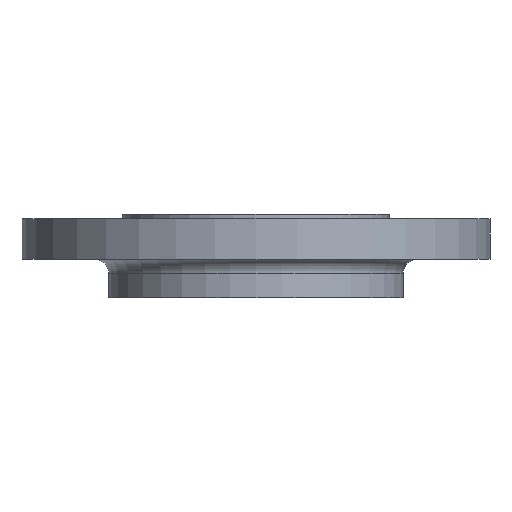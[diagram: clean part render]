
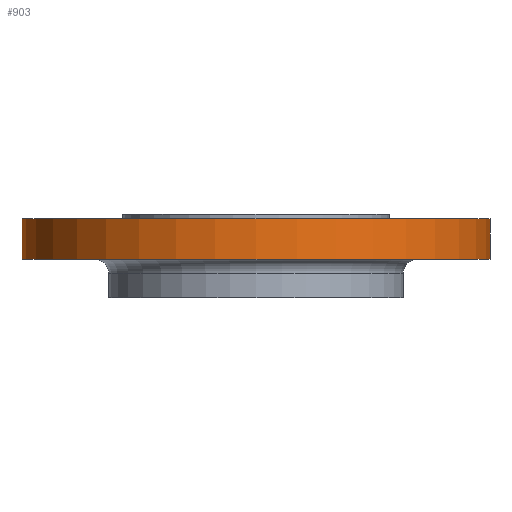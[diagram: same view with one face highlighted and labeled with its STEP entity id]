
A CAD part, front view. The second image highlights one B-rep face of the part: STEP entity #903.
In plain terms, the highlighted cylindrical face has radius 135 mm (diameter 270 mm), a partial arc.
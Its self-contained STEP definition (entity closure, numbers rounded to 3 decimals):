
#71 = DIRECTION ( 'NONE',  ( 1., 0., 0. ) ) ;
#103 = DIRECTION ( 'NONE',  ( 1., 0., 0. ) ) ;
#105 = DIRECTION ( 'NONE',  ( 0., 0., 1. ) ) ;
#107 = CARTESIAN_POINT ( 'NONE',  ( 0., 0., -26. ) ) ;
#118 = DIRECTION ( 'NONE',  ( 0., 0., 1. ) ) ;
#119 = CARTESIAN_POINT ( 'NONE',  ( 0., 0., -78. ) ) ;
#120 = CYLINDRICAL_SURFACE ( 'NONE', #155, 135. ) ;
#122 = FACE_OUTER_BOUND ( 'NONE', #683, .T. ) ;
#155 = AXIS2_PLACEMENT_3D ( 'NONE', #119, #118, #71 ) ;
#167 = CIRCLE ( 'NONE', #172, 135. ) ;
#172 = AXIS2_PLACEMENT_3D ( 'NONE', #107, #105, #103 ) ;
#211 = CARTESIAN_POINT ( 'NONE',  ( -135., 0., -2.5 ) ) ;
#213 = DIRECTION ( 'NONE',  ( 0., 0., 1. ) ) ;
#214 = CARTESIAN_POINT ( 'NONE',  ( 135., 0., -78. ) ) ;
#215 = LINE ( 'NONE', #214, #703 ) ;
#317 = CARTESIAN_POINT ( 'NONE',  ( -135., 0., -26. ) ) ;
#325 = CARTESIAN_POINT ( 'NONE',  ( 135., 0., -2.5 ) ) ;
#330 = CARTESIAN_POINT ( 'NONE',  ( 135., 0., -26. ) ) ;
#381 = DIRECTION ( 'NONE',  ( 0., 0., 1. ) ) ;
#382 = CARTESIAN_POINT ( 'NONE',  ( -135., 0., -78. ) ) ;
#383 = LINE ( 'NONE', #382, #615 ) ;
#444 = EDGE_CURVE ( 'NONE', #677, #831, #601, .T. ) ;
#490 = DIRECTION ( 'NONE',  ( 0., 0., -1. ) ) ;
#528 = DIRECTION ( 'NONE',  ( -1., 0., 0. ) ) ;
#600 = AXIS2_PLACEMENT_3D ( 'NONE', #812, #490, #528 ) ;
#601 = CIRCLE ( 'NONE', #600, 135. ) ;
#615 = VECTOR ( 'NONE', #381, 1000. ) ;
#625 = EDGE_CURVE ( 'NONE', #685, #831, #383, .T. ) ;
#666 = VERTEX_POINT ( 'NONE', #330 ) ;
#677 = VERTEX_POINT ( 'NONE', #325 ) ;
#683 = EDGE_LOOP ( 'NONE', ( #959, #961, #962, #963 ) ) ;
#685 = VERTEX_POINT ( 'NONE', #317 ) ;
#703 = VECTOR ( 'NONE', #213, 1000. ) ;
#812 = CARTESIAN_POINT ( 'NONE',  ( 0., 0., -2.5 ) ) ;
#829 = EDGE_CURVE ( 'NONE', #666, #677, #215, .T. ) ;
#831 = VERTEX_POINT ( 'NONE', #211 ) ;
#903 = ADVANCED_FACE ( 'NONE', ( #122 ), #120, .T. ) ;
#936 = EDGE_CURVE ( 'NONE', #685, #666, #167, .T. ) ;
#959 = ORIENTED_EDGE ( 'NONE', *, *, #625, .F. ) ;
#961 = ORIENTED_EDGE ( 'NONE', *, *, #936, .T. ) ;
#962 = ORIENTED_EDGE ( 'NONE', *, *, #829, .T. ) ;
#963 = ORIENTED_EDGE ( 'NONE', *, *, #444, .T. ) ;
